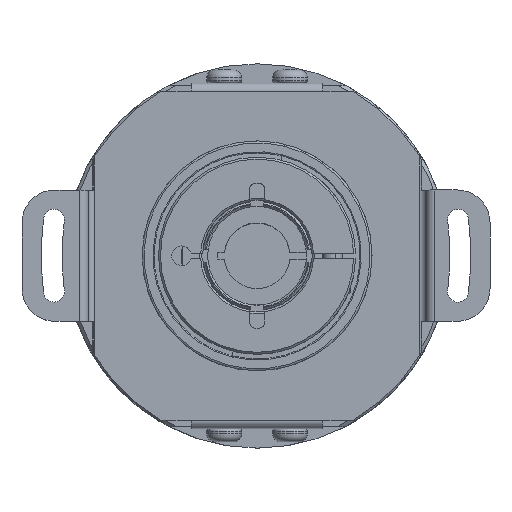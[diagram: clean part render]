
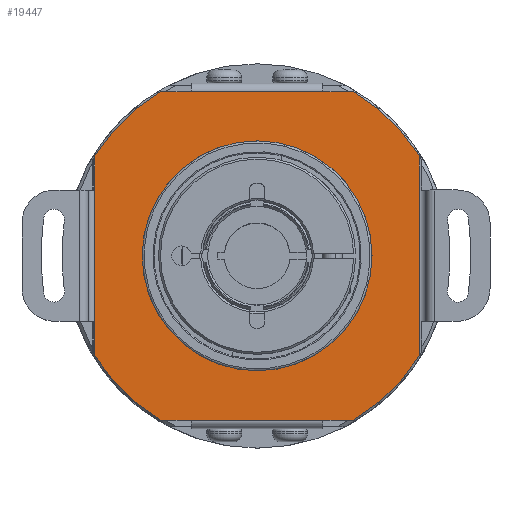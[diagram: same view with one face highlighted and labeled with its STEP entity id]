
A CAD part, top view. The second image highlights one B-rep face of the part: STEP entity #19447.
In plain terms, the highlighted planar face has unit normal (0, 0, 1).
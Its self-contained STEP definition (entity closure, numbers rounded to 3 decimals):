
#259 = ORIENTED_EDGE ( 'NONE', *, *, #19618, .T. ) ;
#3101 = CARTESIAN_POINT ( 'NONE',  ( 0., 17.5, 4.194 ) ) ;
#3199 = DIRECTION ( 'NONE',  ( 0., -1., 0. ) ) ;
#3200 = DIRECTION ( 'NONE',  ( 0., 0., -1. ) ) ;
#3201 = CARTESIAN_POINT ( 'NONE',  ( 0., 0., 4.194 ) ) ;
#3202 = AXIS2_PLACEMENT_3D ( 'NONE', #3201, #3200, #3199 ) ;
#3203 = CIRCLE ( 'NONE', #3202, 29. ) ;
#3214 = DIRECTION ( 'NONE',  ( 0., -1., 0. ) ) ;
#3215 = DIRECTION ( 'NONE',  ( 0., 0., 1. ) ) ;
#3216 = CARTESIAN_POINT ( 'NONE',  ( 0., 0., 4.194 ) ) ;
#3217 = AXIS2_PLACEMENT_3D ( 'NONE', #3216, #3215, #3214 ) ;
#3218 = CIRCLE ( 'NONE', #3217, 17.5 ) ;
#3378 = CARTESIAN_POINT ( 'NONE',  ( 0., -17.5, 4.194 ) ) ;
#4399 = CARTESIAN_POINT ( 'NONE',  ( -14.697, -25., 4.194 ) ) ;
#4492 = CARTESIAN_POINT ( 'NONE',  ( 14.697, -25., 4.194 ) ) ;
#4493 = DIRECTION ( 'NONE',  ( -1., 0., 0. ) ) ;
#4494 = VECTOR ( 'NONE', #4493, 1000. ) ;
#4495 = CARTESIAN_POINT ( 'NONE',  ( 10., -25., 4.194 ) ) ;
#4496 = LINE ( 'NONE', #4495, #4494 ) ;
#4540 = CARTESIAN_POINT ( 'NONE',  ( 10., -25., 4.194 ) ) ;
#4541 = DIRECTION ( 'NONE',  ( -1., 0., 0. ) ) ;
#4542 = VECTOR ( 'NONE', #4541, 1000. ) ;
#4543 = CARTESIAN_POINT ( 'NONE',  ( -5., -25., 4.194 ) ) ;
#4544 = LINE ( 'NONE', #4543, #4542 ) ;
#4545 = DIRECTION ( 'NONE',  ( 0., -1., 0. ) ) ;
#4546 = DIRECTION ( 'NONE',  ( 0., 0., 1. ) ) ;
#4547 = CARTESIAN_POINT ( 'NONE',  ( 0., 0., 4.194 ) ) ;
#4548 = AXIS2_PLACEMENT_3D ( 'NONE', #4547, #4546, #4545 ) ;
#4549 = CIRCLE ( 'NONE', #4548, 29. ) ;
#4565 = DIRECTION ( 'NONE',  ( 0., -1., 0. ) ) ;
#4566 = DIRECTION ( 'NONE',  ( 0., 0., 1. ) ) ;
#4567 = CARTESIAN_POINT ( 'NONE',  ( -5., -35.2, 4.194 ) ) ;
#4568 = AXIS2_PLACEMENT_3D ( 'NONE', #4567, #4566, #4565 ) ;
#4569 = PLANE ( 'NONE',  #4568 ) ;
#4584 = FACE_BOUND ( 'NONE', #19598, .T. ) ;
#4585 = FACE_OUTER_BOUND ( 'NONE', #19398, .T. ) ;
#4826 = CARTESIAN_POINT ( 'NONE',  ( -24.7, 15.196, 4.194 ) ) ;
#4827 = DIRECTION ( 'NONE',  ( 0., 1., 0. ) ) ;
#4828 = VECTOR ( 'NONE', #4827, 1000. ) ;
#4829 = CARTESIAN_POINT ( 'NONE',  ( -24.7, -35.2, 4.194 ) ) ;
#4830 = LINE ( 'NONE', #4829, #4828 ) ;
#4832 = CARTESIAN_POINT ( 'NONE',  ( -10., -25., 4.194 ) ) ;
#4833 = DIRECTION ( 'NONE',  ( -1., 0., 0. ) ) ;
#4834 = VECTOR ( 'NONE', #4833, 1000. ) ;
#4835 = CARTESIAN_POINT ( 'NONE',  ( -25., -25., 4.194 ) ) ;
#4836 = LINE ( 'NONE', #4835, #4834 ) ;
#4842 = CARTESIAN_POINT ( 'NONE',  ( -24.7, -15.196, 4.194 ) ) ;
#5027 = CARTESIAN_POINT ( 'NONE',  ( -14.697, 25., 4.194 ) ) ;
#5036 = DIRECTION ( 'NONE',  ( 0., -1., 0. ) ) ;
#5037 = DIRECTION ( 'NONE',  ( 0., 0., 1. ) ) ;
#5038 = CARTESIAN_POINT ( 'NONE',  ( 0., 0., 4.194 ) ) ;
#5039 = AXIS2_PLACEMENT_3D ( 'NONE', #5038, #5037, #5036 ) ;
#5040 = CIRCLE ( 'NONE', #5039, 17.5 ) ;
#5041 = CARTESIAN_POINT ( 'NONE',  ( 24.7, -15.196, 4.194 ) ) ;
#5042 = CARTESIAN_POINT ( 'NONE',  ( 10., 25., 4.194 ) ) ;
#5043 = CARTESIAN_POINT ( 'NONE',  ( -10., 25., 4.194 ) ) ;
#5073 = DIRECTION ( 'NONE',  ( 1., 0., 0. ) ) ;
#5074 = VECTOR ( 'NONE', #5073, 1000. ) ;
#5075 = CARTESIAN_POINT ( 'NONE',  ( -10., 25., 4.194 ) ) ;
#5076 = LINE ( 'NONE', #5075, #5074 ) ;
#5119 = CARTESIAN_POINT ( 'NONE',  ( 14.697, 25., 4.194 ) ) ;
#5120 = DIRECTION ( 'NONE',  ( 1., 0., 0. ) ) ;
#5121 = DIRECTION ( 'NONE',  ( 0., 0., 1. ) ) ;
#5122 = CARTESIAN_POINT ( 'NONE',  ( 0., 0., 4.194 ) ) ;
#5123 = AXIS2_PLACEMENT_3D ( 'NONE', #5122, #5121, #5120 ) ;
#5124 = CIRCLE ( 'NONE', #5123, 29. ) ;
#5128 = DIRECTION ( 'NONE',  ( -1., 0., 0. ) ) ;
#5129 = VECTOR ( 'NONE', #5128, 1000. ) ;
#5130 = CARTESIAN_POINT ( 'NONE',  ( -5., 25., 4.194 ) ) ;
#5134 = LINE ( 'NONE', #5130, #5129 ) ;
#5190 = DIRECTION ( 'NONE',  ( 1., 0., 0. ) ) ;
#5191 = VECTOR ( 'NONE', #5190, 1000. ) ;
#5192 = CARTESIAN_POINT ( 'NONE',  ( 25., 25., 4.194 ) ) ;
#5193 = LINE ( 'NONE', #5192, #5191 ) ;
#5194 = DIRECTION ( 'NONE',  ( 0., 1., 0. ) ) ;
#5195 = VECTOR ( 'NONE', #5194, 1000. ) ;
#5196 = CARTESIAN_POINT ( 'NONE',  ( 24.7, -35.2, 4.194 ) ) ;
#5197 = LINE ( 'NONE', #5196, #5195 ) ;
#5203 = DIRECTION ( 'NONE',  ( 0., 1., 0. ) ) ;
#5204 = DIRECTION ( 'NONE',  ( 0., 0., -1. ) ) ;
#5205 = CARTESIAN_POINT ( 'NONE',  ( 0., 0., 4.194 ) ) ;
#5206 = AXIS2_PLACEMENT_3D ( 'NONE', #5205, #5204, #5203 ) ;
#5207 = CIRCLE ( 'NONE', #5206, 29. ) ;
#5221 = CARTESIAN_POINT ( 'NONE',  ( 24.7, 15.196, 4.194 ) ) ;
#19013 = VERTEX_POINT ( 'NONE', #3101 ) ;
#19052 = EDGE_CURVE ( 'NONE', #19013, #19087, #3218, .T. ) ;
#19062 = EDGE_CURVE ( 'NONE', #19591, #19393, #3203, .T. ) ;
#19087 = VERTEX_POINT ( 'NONE', #3378 ) ;
#19369 = VERTEX_POINT ( 'NONE', #4399 ) ;
#19392 = EDGE_CURVE ( 'NONE', #19393, #19443, #4496, .T. ) ;
#19393 = VERTEX_POINT ( 'NONE', #4492 ) ;
#19394 = ORIENTED_EDGE ( 'NONE', *, *, #19062, .F. ) ;
#19398 = EDGE_LOOP ( 'NONE', ( #19532, #19439, #19438, #19530, #19444, #19394, #19609, #19588, #19654, #259, #19610, #19647 ) ) ;
#19438 = ORIENTED_EDGE ( 'NONE', *, *, #19528, .F. ) ;
#19439 = ORIENTED_EDGE ( 'NONE', *, *, #19440, .T. ) ;
#19440 = EDGE_CURVE ( 'NONE', #19523, #19369, #4549, .T. ) ;
#19442 = EDGE_CURVE ( 'NONE', #19443, #19529, #4544, .T. ) ;
#19443 = VERTEX_POINT ( 'NONE', #4540 ) ;
#19444 = ORIENTED_EDGE ( 'NONE', *, *, #19392, .F. ) ;
#19447 = ADVANCED_FACE ( 'NONE', ( #4585, #4584 ), #4569, .T. ) ;
#19523 = VERTEX_POINT ( 'NONE', #4842 ) ;
#19528 = EDGE_CURVE ( 'NONE', #19529, #19369, #4836, .T. ) ;
#19529 = VERTEX_POINT ( 'NONE', #4832 ) ;
#19530 = ORIENTED_EDGE ( 'NONE', *, *, #19442, .F. ) ;
#19532 = ORIENTED_EDGE ( 'NONE', *, *, #19533, .F. ) ;
#19533 = EDGE_CURVE ( 'NONE', #19523, #19534, #4830, .T. ) ;
#19534 = VERTEX_POINT ( 'NONE', #4826 ) ;
#19588 = ORIENTED_EDGE ( 'NONE', *, *, #19625, .T. ) ;
#19589 = VERTEX_POINT ( 'NONE', #5043 ) ;
#19590 = VERTEX_POINT ( 'NONE', #5042 ) ;
#19591 = VERTEX_POINT ( 'NONE', #5041 ) ;
#19592 = EDGE_CURVE ( 'NONE', #19087, #19013, #5040, .T. ) ;
#19593 = ORIENTED_EDGE ( 'NONE', *, *, #19052, .F. ) ;
#19598 = EDGE_LOOP ( 'NONE', ( #19639, #19593 ) ) ;
#19599 = VERTEX_POINT ( 'NONE', #5027 ) ;
#19605 = EDGE_CURVE ( 'NONE', #19599, #19589, #5076, .T. ) ;
#19609 = ORIENTED_EDGE ( 'NONE', *, *, #19653, .T. ) ;
#19610 = ORIENTED_EDGE ( 'NONE', *, *, #19605, .F. ) ;
#19618 = EDGE_CURVE ( 'NONE', #19590, #19589, #5134, .T. ) ;
#19625 = EDGE_CURVE ( 'NONE', #19640, #19626, #5124, .T. ) ;
#19626 = VERTEX_POINT ( 'NONE', #5119 ) ;
#19639 = ORIENTED_EDGE ( 'NONE', *, *, #19592, .F. ) ;
#19640 = VERTEX_POINT ( 'NONE', #5221 ) ;
#19647 = ORIENTED_EDGE ( 'NONE', *, *, #19649, .F. ) ;
#19649 = EDGE_CURVE ( 'NONE', #19534, #19599, #5207, .T. ) ;
#19653 = EDGE_CURVE ( 'NONE', #19591, #19640, #5197, .T. ) ;
#19654 = ORIENTED_EDGE ( 'NONE', *, *, #19655, .F. ) ;
#19655 = EDGE_CURVE ( 'NONE', #19590, #19626, #5193, .T. ) ;
